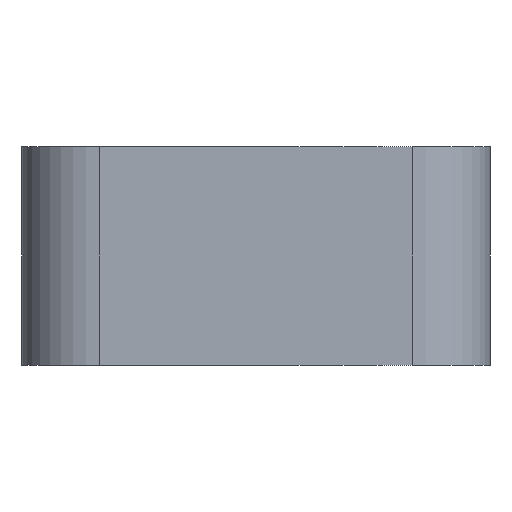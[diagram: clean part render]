
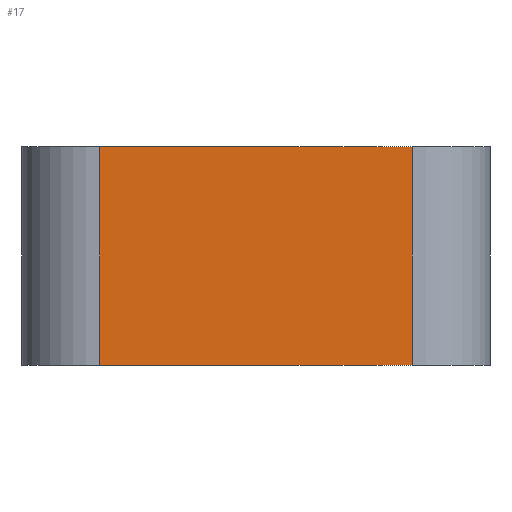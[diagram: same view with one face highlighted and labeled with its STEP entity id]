
A CAD part, left-side view. The second image highlights one B-rep face of the part: STEP entity #17.
In plain terms, the highlighted planar face has unit normal (-1, 0, 0).
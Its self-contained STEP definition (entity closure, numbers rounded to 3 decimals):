
#17 = ADVANCED_FACE('',(#18),#32,.F.);
#18 = FACE_BOUND('',#19,.F.);
#19 = EDGE_LOOP('',(#20,#55,#83,#111));
#20 = ORIENTED_EDGE('',*,*,#21,.F.);
#21 = EDGE_CURVE('',#22,#24,#26,.T.);
#22 = VERTEX_POINT('',#23);
#23 = CARTESIAN_POINT('',(-7.5,-2.,2.8));
#24 = VERTEX_POINT('',#25);
#25 = CARTESIAN_POINT('',(-7.5,2.,2.8));
#26 = SURFACE_CURVE('',#27,(#31,#43),.PCURVE_S1.);
#27 = LINE('',#28,#29);
#28 = CARTESIAN_POINT('',(-7.5,-3.,2.8));
#29 = VECTOR('',#30,1.);
#30 = DIRECTION('',(0.,1.,0.));
#31 = PCURVE('',#32,#37);
#32 = PLANE('',#33);
#33 = AXIS2_PLACEMENT_3D('',#34,#35,#36);
#34 = CARTESIAN_POINT('',(-7.5,-3.,0.));
#35 = DIRECTION('',(1.,0.,0.));
#36 = DIRECTION('',(0.,0.,1.));
#37 = DEFINITIONAL_REPRESENTATION('',(#38),#42);
#38 = LINE('',#39,#40);
#39 = CARTESIAN_POINT('',(2.8,0.));
#40 = VECTOR('',#41,1.);
#41 = DIRECTION('',(0.,-1.));
#42 = ( GEOMETRIC_REPRESENTATION_CONTEXT(2) 
PARAMETRIC_REPRESENTATION_CONTEXT() REPRESENTATION_CONTEXT('2D SPACE',''
  ) );
#43 = PCURVE('',#44,#49);
#44 = PLANE('',#45);
#45 = AXIS2_PLACEMENT_3D('',#46,#47,#48);
#46 = CARTESIAN_POINT('',(-7.5,-3.,2.8));
#47 = DIRECTION('',(0.,0.,1.));
#48 = DIRECTION('',(1.,0.,0.));
#49 = DEFINITIONAL_REPRESENTATION('',(#50),#54);
#50 = LINE('',#51,#52);
#51 = CARTESIAN_POINT('',(0.,0.));
#52 = VECTOR('',#53,1.);
#53 = DIRECTION('',(0.,1.));
#54 = ( GEOMETRIC_REPRESENTATION_CONTEXT(2) 
PARAMETRIC_REPRESENTATION_CONTEXT() REPRESENTATION_CONTEXT('2D SPACE',''
  ) );
#55 = ORIENTED_EDGE('',*,*,#56,.F.);
#56 = EDGE_CURVE('',#57,#22,#59,.T.);
#57 = VERTEX_POINT('',#58);
#58 = CARTESIAN_POINT('',(-7.5,-2.,0.));
#59 = SURFACE_CURVE('',#60,(#64,#71),.PCURVE_S1.);
#60 = LINE('',#61,#62);
#61 = CARTESIAN_POINT('',(-7.5,-2.,0.));
#62 = VECTOR('',#63,1.);
#63 = DIRECTION('',(0.,0.,1.));
#64 = PCURVE('',#32,#65);
#65 = DEFINITIONAL_REPRESENTATION('',(#66),#70);
#66 = LINE('',#67,#68);
#67 = CARTESIAN_POINT('',(0.,-1.));
#68 = VECTOR('',#69,1.);
#69 = DIRECTION('',(1.,0.));
#70 = ( GEOMETRIC_REPRESENTATION_CONTEXT(2) 
PARAMETRIC_REPRESENTATION_CONTEXT() REPRESENTATION_CONTEXT('2D SPACE',''
  ) );
#71 = PCURVE('',#72,#77);
#72 = CYLINDRICAL_SURFACE('',#73,1.);
#73 = AXIS2_PLACEMENT_3D('',#74,#75,#76);
#74 = CARTESIAN_POINT('',(-6.5,-2.,0.));
#75 = DIRECTION('',(0.,0.,1.));
#76 = DIRECTION('',(-1.,-0.,0.));
#77 = DEFINITIONAL_REPRESENTATION('',(#78),#82);
#78 = LINE('',#79,#80);
#79 = CARTESIAN_POINT('',(0.,0.));
#80 = VECTOR('',#81,1.);
#81 = DIRECTION('',(0.,1.));
#82 = ( GEOMETRIC_REPRESENTATION_CONTEXT(2) 
PARAMETRIC_REPRESENTATION_CONTEXT() REPRESENTATION_CONTEXT('2D SPACE',''
  ) );
#83 = ORIENTED_EDGE('',*,*,#84,.T.);
#84 = EDGE_CURVE('',#57,#85,#87,.T.);
#85 = VERTEX_POINT('',#86);
#86 = CARTESIAN_POINT('',(-7.5,2.,0.));
#87 = SURFACE_CURVE('',#88,(#92,#99),.PCURVE_S1.);
#88 = LINE('',#89,#90);
#89 = CARTESIAN_POINT('',(-7.5,-3.,0.));
#90 = VECTOR('',#91,1.);
#91 = DIRECTION('',(0.,1.,0.));
#92 = PCURVE('',#32,#93);
#93 = DEFINITIONAL_REPRESENTATION('',(#94),#98);
#94 = LINE('',#95,#96);
#95 = CARTESIAN_POINT('',(0.,0.));
#96 = VECTOR('',#97,1.);
#97 = DIRECTION('',(0.,-1.));
#98 = ( GEOMETRIC_REPRESENTATION_CONTEXT(2) 
PARAMETRIC_REPRESENTATION_CONTEXT() REPRESENTATION_CONTEXT('2D SPACE',''
  ) );
#99 = PCURVE('',#100,#105);
#100 = PLANE('',#101);
#101 = AXIS2_PLACEMENT_3D('',#102,#103,#104);
#102 = CARTESIAN_POINT('',(-7.5,-3.,0.));
#103 = DIRECTION('',(0.,0.,1.));
#104 = DIRECTION('',(1.,0.,0.));
#105 = DEFINITIONAL_REPRESENTATION('',(#106),#110);
#106 = LINE('',#107,#108);
#107 = CARTESIAN_POINT('',(0.,0.));
#108 = VECTOR('',#109,1.);
#109 = DIRECTION('',(0.,1.));
#110 = ( GEOMETRIC_REPRESENTATION_CONTEXT(2) 
PARAMETRIC_REPRESENTATION_CONTEXT() REPRESENTATION_CONTEXT('2D SPACE',''
  ) );
#111 = ORIENTED_EDGE('',*,*,#112,.T.);
#112 = EDGE_CURVE('',#85,#24,#113,.T.);
#113 = SURFACE_CURVE('',#114,(#118,#125),.PCURVE_S1.);
#114 = LINE('',#115,#116);
#115 = CARTESIAN_POINT('',(-7.5,2.,0.));
#116 = VECTOR('',#117,1.);
#117 = DIRECTION('',(0.,0.,1.));
#118 = PCURVE('',#32,#119);
#119 = DEFINITIONAL_REPRESENTATION('',(#120),#124);
#120 = LINE('',#121,#122);
#121 = CARTESIAN_POINT('',(0.,-5.));
#122 = VECTOR('',#123,1.);
#123 = DIRECTION('',(1.,0.));
#124 = ( GEOMETRIC_REPRESENTATION_CONTEXT(2) 
PARAMETRIC_REPRESENTATION_CONTEXT() REPRESENTATION_CONTEXT('2D SPACE',''
  ) );
#125 = PCURVE('',#126,#131);
#126 = CYLINDRICAL_SURFACE('',#127,1.);
#127 = AXIS2_PLACEMENT_3D('',#128,#129,#130);
#128 = CARTESIAN_POINT('',(-6.5,2.,0.));
#129 = DIRECTION('',(0.,0.,1.));
#130 = DIRECTION('',(-1.,-0.,0.));
#131 = DEFINITIONAL_REPRESENTATION('',(#132),#136);
#132 = LINE('',#133,#134);
#133 = CARTESIAN_POINT('',(-0.,0.));
#134 = VECTOR('',#135,1.);
#135 = DIRECTION('',(-0.,1.));
#136 = ( GEOMETRIC_REPRESENTATION_CONTEXT(2) 
PARAMETRIC_REPRESENTATION_CONTEXT() REPRESENTATION_CONTEXT('2D SPACE',''
  ) );
